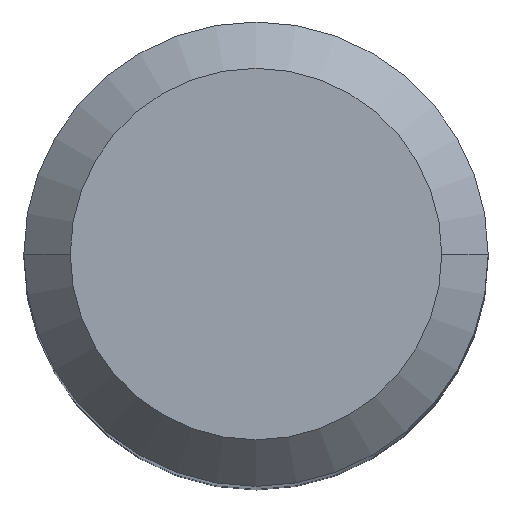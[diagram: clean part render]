
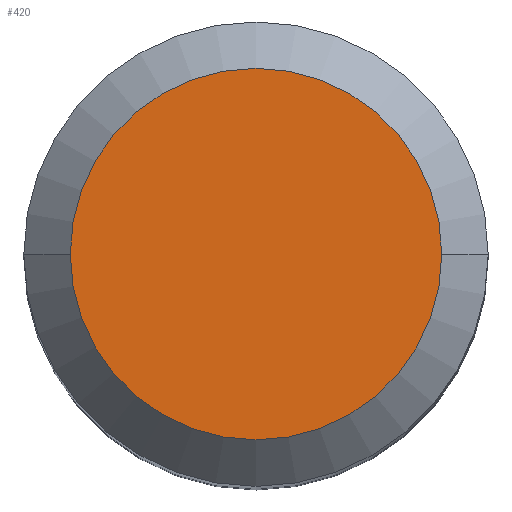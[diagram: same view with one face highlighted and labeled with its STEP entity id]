
A CAD part, top view. The second image highlights one B-rep face of the part: STEP entity #420.
In plain terms, the highlighted planar face has unit normal (0, 0, 1).
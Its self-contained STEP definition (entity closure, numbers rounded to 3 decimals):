
#12 = AXIS2_PLACEMENT_3D ( 'NONE', #177, #304, #402 ) ;
#16 = CARTESIAN_POINT ( 'NONE',  ( 8., 0., 0. ) ) ;
#17 = ORIENTED_EDGE ( 'NONE', *, *, #99, .F. ) ;
#69 = AXIS2_PLACEMENT_3D ( 'NONE', #352, #357, #128 ) ;
#87 = DIRECTION ( 'NONE',  ( 1., 0., 0. ) ) ;
#99 = EDGE_CURVE ( 'NONE', #260, #181, #202, .T. ) ;
#128 = DIRECTION ( 'NONE',  ( -1., 0., 0. ) ) ;
#140 = EDGE_LOOP ( 'NONE', ( #300, #17 ) ) ;
#177 = CARTESIAN_POINT ( 'NONE',  ( 0., 0., 0. ) ) ;
#181 = VERTEX_POINT ( 'NONE', #185 ) ;
#185 = CARTESIAN_POINT ( 'NONE',  ( -8., 0., 0. ) ) ;
#202 = CIRCLE ( 'NONE', #69, 8. ) ;
#228 = DIRECTION ( 'NONE',  ( 0., 0., 1. ) ) ;
#253 = FACE_OUTER_BOUND ( 'NONE', #140, .T. ) ;
#260 = VERTEX_POINT ( 'NONE', #16 ) ;
#290 = AXIS2_PLACEMENT_3D ( 'NONE', #339, #228, #87 ) ;
#300 = ORIENTED_EDGE ( 'NONE', *, *, #309, .F. ) ;
#304 = DIRECTION ( 'NONE',  ( 0., 0., -1. ) ) ;
#309 = EDGE_CURVE ( 'NONE', #181, #260, #392, .T. ) ;
#339 = CARTESIAN_POINT ( 'NONE',  ( 0., 8., 0. ) ) ;
#352 = CARTESIAN_POINT ( 'NONE',  ( 0., 0., 0. ) ) ;
#357 = DIRECTION ( 'NONE',  ( 0., 0., -1. ) ) ;
#381 = PLANE ( 'NONE',  #290 ) ;
#392 = CIRCLE ( 'NONE', #12, 8. ) ;
#402 = DIRECTION ( 'NONE',  ( -1., 0., 0. ) ) ;
#420 = ADVANCED_FACE ( 'NONE', ( #253 ), #381, .T. ) ;
